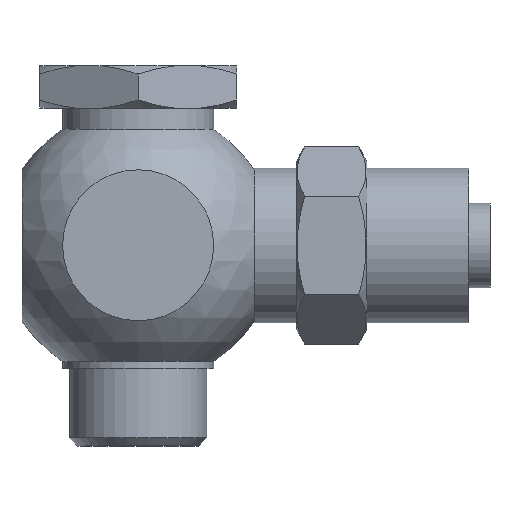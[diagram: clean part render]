
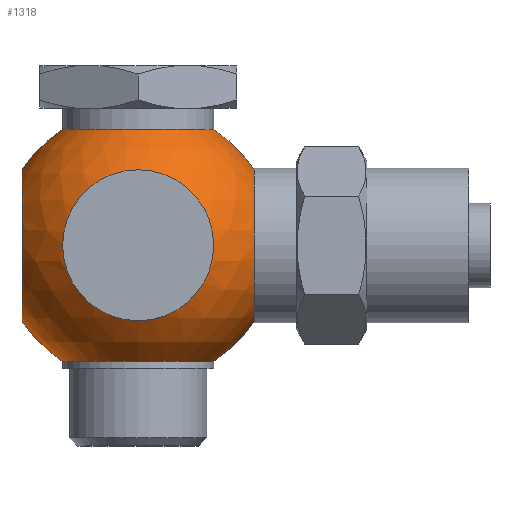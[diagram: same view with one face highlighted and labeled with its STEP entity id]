
A CAD part, top view. The second image highlights one B-rep face of the part: STEP entity #1318.
In plain terms, the highlighted spherical face has radius 9.841 mm.
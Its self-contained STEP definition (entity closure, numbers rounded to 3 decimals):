
#86=CARTESIAN_POINT('',(0.,0.,8.25));
#87=DIRECTION('',(0.,0.,-1.));
#88=DIRECTION('',(-1.,0.,0.));
#89=AXIS2_PLACEMENT_3D('',#86,#87,#88);
#91=CARTESIAN_POINT('',(0.,0.,8.25));
#92=DIRECTION('',(0.,0.,-1.));
#93=DIRECTION('',(1.,0.,0.));
#94=AXIS2_PLACEMENT_3D('',#91,#92,#93);
#96=CARTESIAN_POINT('',(0.,0.,0.));
#97=DIRECTION('',(0.,0.,1.));
#98=DIRECTION('',(0.545,-0.838,0.));
#99=AXIS2_PLACEMENT_3D('',#96,#97,#98);
#101=CARTESIAN_POINT('',(0.,-8.25,0.));
#102=DIRECTION('',(0.,-1.,0.));
#103=DIRECTION('',(1.,0.,0.));
#104=AXIS2_PLACEMENT_3D('',#101,#102,#103);
#106=CARTESIAN_POINT('',(0.,0.,0.));
#107=DIRECTION('',(0.,0.,-1.));
#108=DIRECTION('',(-0.545,-0.838,0.));
#109=AXIS2_PLACEMENT_3D('',#106,#107,#108);
#111=CARTESIAN_POINT('',(-8.25,0.,0.));
#112=DIRECTION('',(1.,0.,0.));
#113=DIRECTION('',(0.,1.,0.));
#114=AXIS2_PLACEMENT_3D('',#111,#112,#113);
#116=CARTESIAN_POINT('',(0.,0.,0.));
#117=DIRECTION('',(0.,0.,-1.));
#118=DIRECTION('',(-0.838,0.545,0.));
#119=AXIS2_PLACEMENT_3D('',#116,#117,#118);
#121=CARTESIAN_POINT('',(0.,0.,0.));
#122=DIRECTION('',(0.,0.,1.));
#123=DIRECTION('',(0.838,0.545,0.));
#124=AXIS2_PLACEMENT_3D('',#121,#122,#123);
#126=CARTESIAN_POINT('',(8.25,0.,0.));
#127=DIRECTION('',(1.,0.,0.));
#128=DIRECTION('',(0.,1.,0.));
#129=AXIS2_PLACEMENT_3D('',#126,#127,#128);
#219=CARTESIAN_POINT('',(0.,8.25,0.));
#220=DIRECTION('',(0.,-1.,0.));
#221=DIRECTION('',(1.,0.,0.));
#222=AXIS2_PLACEMENT_3D('',#219,#220,#221);
#1021=CARTESIAN_POINT('',(5.364,-8.25,0.));
#1023=VERTEX_POINT('',#1021);
#1031=CARTESIAN_POINT('',(-5.364,-8.25,0.));
#1033=VERTEX_POINT('',#1031);
#1034=CARTESIAN_POINT('',(5.364,8.25,0.));
#1035=CARTESIAN_POINT('',(-5.364,8.25,0.));
#1036=VERTEX_POINT('',#1034);
#1037=VERTEX_POINT('',#1035);
#1042=CARTESIAN_POINT('',(-8.25,-5.364,0.));
#1043=CARTESIAN_POINT('',(-8.25,5.364,0.));
#1044=VERTEX_POINT('',#1042);
#1045=VERTEX_POINT('',#1043);
#1046=CARTESIAN_POINT('',(-5.364,0.,8.25));
#1047=CARTESIAN_POINT('',(5.364,0.,8.25));
#1048=VERTEX_POINT('',#1046);
#1049=VERTEX_POINT('',#1047);
#1174=CARTESIAN_POINT('',(8.25,-5.364,0.));
#1175=CARTESIAN_POINT('',(8.25,5.364,0.));
#1176=VERTEX_POINT('',#1174);
#1177=VERTEX_POINT('',#1175);
#1290=CARTESIAN_POINT('',(0.,0.,0.));
#1291=DIRECTION('',(0.,1.,0.));
#1292=DIRECTION('',(1.,0.,0.));
#1293=AXIS2_PLACEMENT_3D('',#1290,#1291,#1292);
#1294=SPHERICAL_SURFACE('',#1293,9.84);
#1296=ORIENTED_EDGE('',*,*,#1295,.F.);
#1297=ORIENTED_EDGE('',*,*,#1285,.T.);
#1299=ORIENTED_EDGE('',*,*,#1298,.T.);
#1301=ORIENTED_EDGE('',*,*,#1300,.F.);
#1303=ORIENTED_EDGE('',*,*,#1302,.T.);
#1305=ORIENTED_EDGE('',*,*,#1304,.F.);
#1307=ORIENTED_EDGE('',*,*,#1306,.F.);
#1309=ORIENTED_EDGE('',*,*,#1308,.T.);
#1310=EDGE_LOOP('',(#1296,#1297,#1299,#1301,#1303,#1305,#1307,#1309));
#1311=FACE_OUTER_BOUND('',#1310,.F.);
#1313=ORIENTED_EDGE('',*,*,#1312,.F.);
#1315=ORIENTED_EDGE('',*,*,#1314,.F.);
#1316=EDGE_LOOP('',(#1313,#1315));
#1317=FACE_BOUND('',#1316,.F.);
#1318=ADVANCED_FACE('',(#1311,#1317),#1294,.T.);
#90=CIRCLE('',#89,5.364);
#95=CIRCLE('',#94,5.364);
#100=CIRCLE('',#99,9.84);
#105=CIRCLE('',#104,5.364);
#110=CIRCLE('',#109,9.84);
#115=CIRCLE('',#114,5.364);
#120=CIRCLE('',#119,9.84);
#125=CIRCLE('',#124,9.84);
#130=CIRCLE('',#129,5.364);
#223=CIRCLE('',#222,5.364);
#1285=EDGE_CURVE('',#1023,#1033,#105,.T.);
#1295=EDGE_CURVE('',#1023,#1176,#100,.T.);
#1298=EDGE_CURVE('',#1033,#1044,#110,.T.);
#1300=EDGE_CURVE('',#1045,#1044,#115,.T.);
#1302=EDGE_CURVE('',#1045,#1037,#120,.T.);
#1304=EDGE_CURVE('',#1036,#1037,#223,.T.);
#1306=EDGE_CURVE('',#1177,#1036,#125,.T.);
#1308=EDGE_CURVE('',#1177,#1176,#130,.T.);
#1312=EDGE_CURVE('',#1048,#1049,#90,.T.);
#1314=EDGE_CURVE('',#1049,#1048,#95,.T.);
